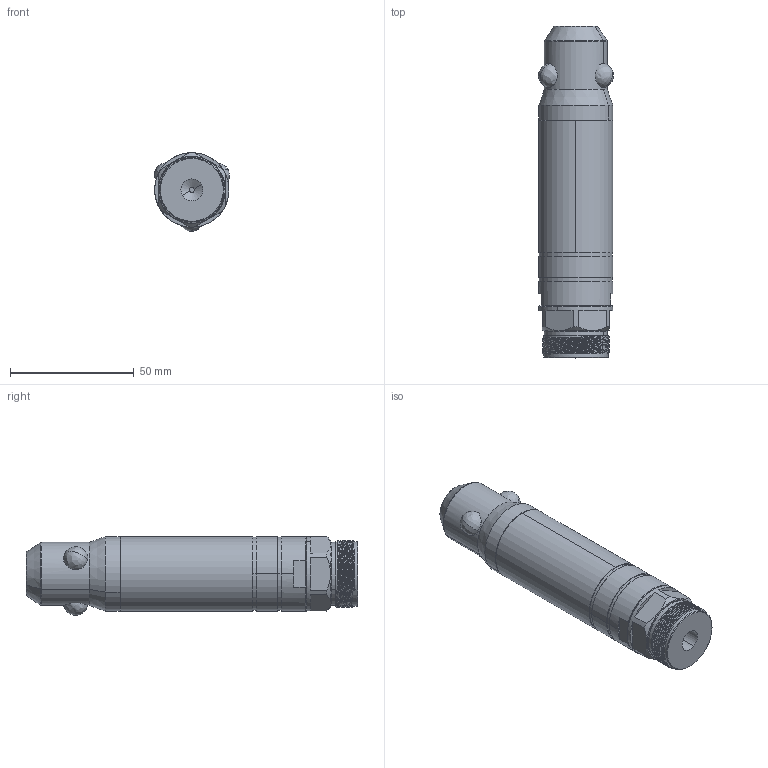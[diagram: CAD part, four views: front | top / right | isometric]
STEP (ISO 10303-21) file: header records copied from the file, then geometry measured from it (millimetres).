
FILE_DESCRIPTION (( 'STEP AP214' ), '1' );
FILE_NAME ('GMP30A.STEP', '2019-11-12T09:09:57', ( '微软用户' ), ( '微软中国' ), 'SwSTEP 2.0', 'SolidWorks 2016', '' );
FILE_SCHEMA (( 'AUTOMOTIVE_DESIGN' ));
Length unit declared in the file: millimetre
Products named in the file (1): GMP30A
Bounding box: 30.32 x 134 x 31.73 mm (x, y, z)
Volume: 50113.3 mm3; surface area: 29313.8 mm2
Topology: 6 solids, 6 shells, 251 faces, 658 edges, 419 vertices
Faces by surface type: cylinder 131, plane 47, bspline 40, cone 33
Entity records: 19236 total; most frequent: CARTESIAN_POINT 11000, ORIENTED_EDGE 1292, DIRECTION 969, EDGE_CURVE 646, VERTEX_POINT 419, AXIS2_PLACEMENT_3D 370, EDGE_LOOP 273, UNCERTAINTY_MEASURE_WITH_UNIT 259
